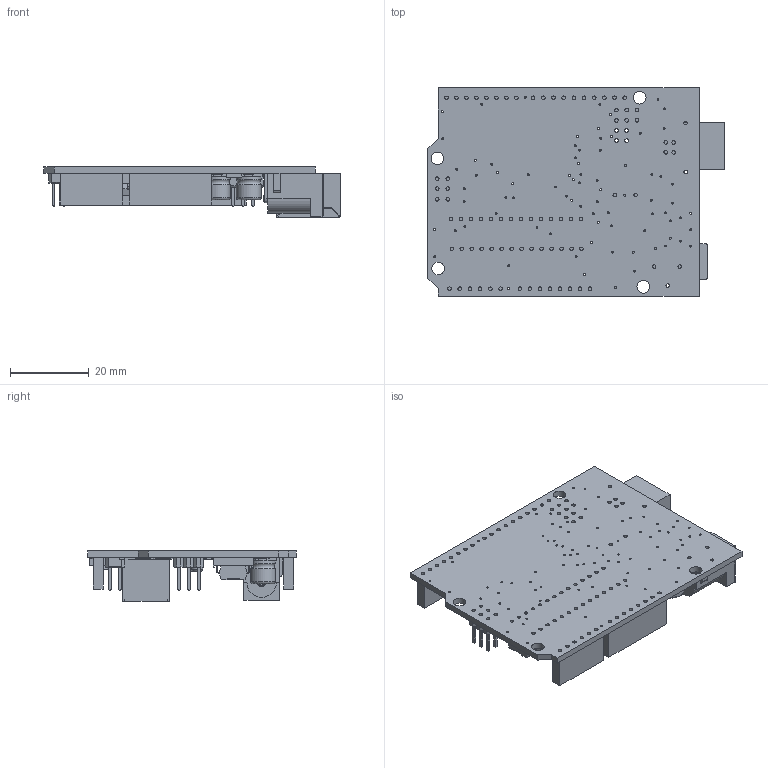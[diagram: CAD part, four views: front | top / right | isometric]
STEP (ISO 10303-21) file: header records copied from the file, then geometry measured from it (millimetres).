
FILE_DESCRIPTION(/* description */ (''),/* implementation_level */ '2;1');
FILE_NAME(/* name */ 'arduino Assembly.stp',/* time_stamp */ '2025-11-18T17:00:22-06:00',/* author */ (''),/* organization */ (''),/* preprocessor_version */ 'ST-DEVELOPER v19.4',/* originating_system */ 'SIEMENS PLM Software NX2212.8301',/* authorisation */ '');
FILE_SCHEMA (('AUTOMOTIVE_DESIGN { 1 0 10303 214 3 1 1 1 }'));
Products named in the file (1): arduino Assembly_objects
Bounding box: 75.37 x 53.09 x 12.76 mm (x, y, z)
Volume: 12133.8 mm3; surface area: 17068.3 mm2
Topology: 68 solids, 68 shells, 2578 faces, 6716 edges, 4386 vertices
Faces by surface type: plane 2093, cylinder 467, torus 14, extrusion 4
Full cylindrical faces by diameter (mm): 0.081 x4, 0.242 x1, 0.493 x80, 0.903 x63, 0.921 x24, 1.205 x1, 1.27 x2, 1.518 x1, 1.678 x1, 3.142 x1, 3.218 x4, 6.3 x4, 6.4 x3
Entity records: 78161 total; most frequent: CARTESIAN_POINT 13861, ORIENTED_EDGE 13020, DIRECTION 12551, EDGE_CURVE 6510, VECTOR 5543, LINE 5539, VERTEX_POINT 4378, AXIS2_PLACEMENT_3D 3504
